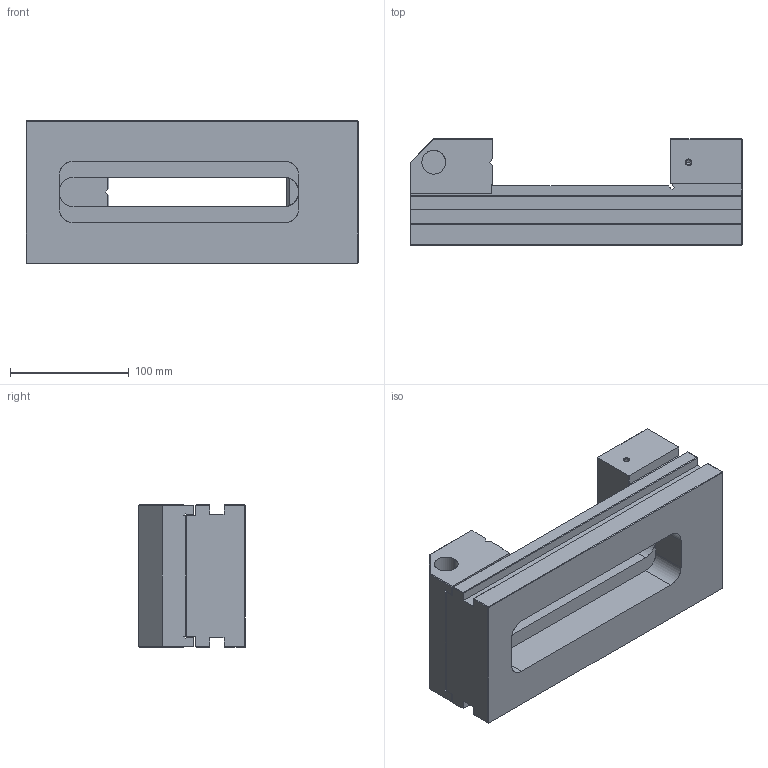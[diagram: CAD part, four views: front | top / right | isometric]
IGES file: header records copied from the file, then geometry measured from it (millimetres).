
Start section: SolidWorks IGES file using analytic representation for surfaces
Global section: file name: \\tormach-dc\Published Documents\Drawings\Files saved as other types\Solid_Models\MODELS FOR PUBLIC\3311 120mm TOOLMAKER VISE.IGS; native system: SolidWorks 2014; preprocessor: SolidWorks 2014; author: rtooley; date: 160531.145251; units: millimetre
Bounding box: 280 x 90 x 120 mm (x, y, z)
Surface area: 180543.7 mm2 (no closed solid volume)
Topology: 0 solids, 0 shells, 430 faces, 4277 edges, 4273 vertices
Faces by surface type: bspline 408, revolution 22
